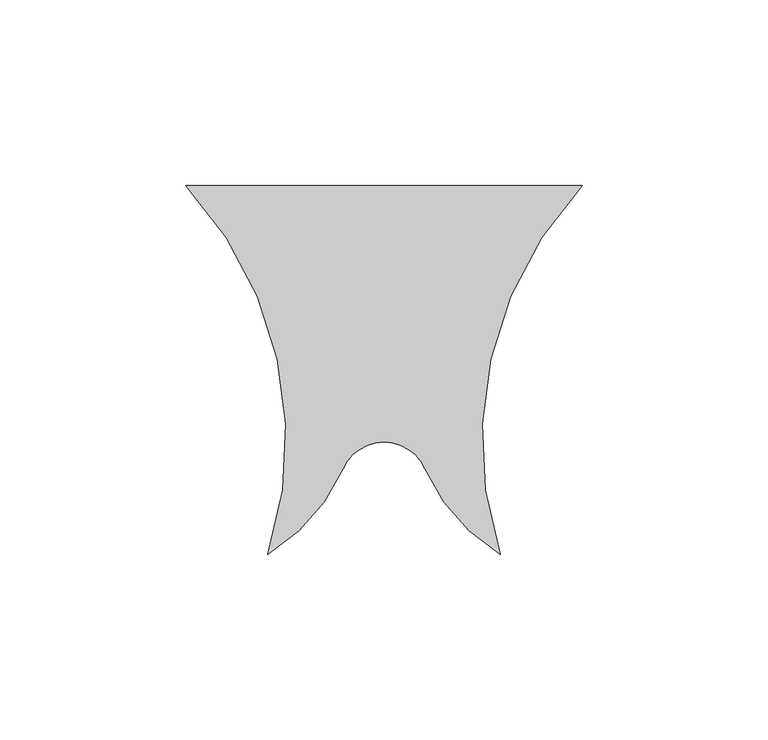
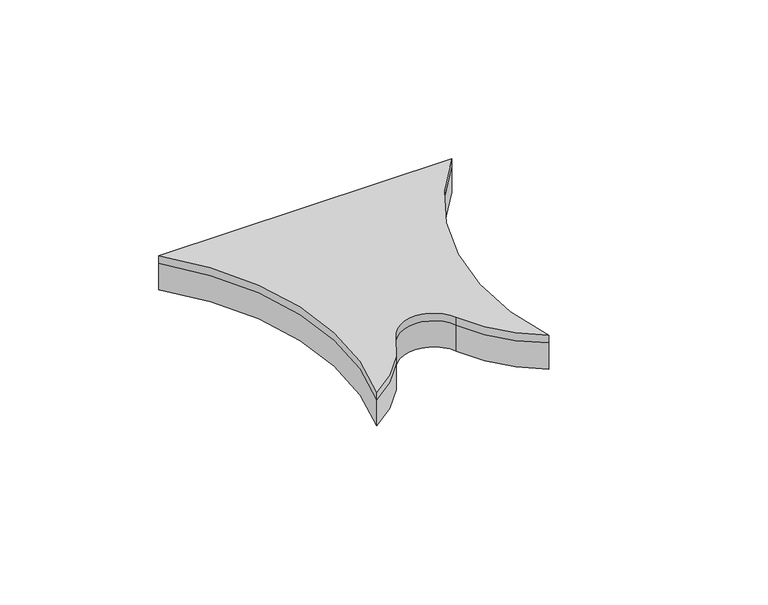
"""IFC4 building model written with IfcOpenShell, lengths in millimetres: proxy geometry, FilzFelt_Fish_Block : Fish Block."""

from ifc_helpers import new_model, si_unit, point, frame, frame_2d, origin, origin_with_axes, place, context, project, spatial, polyline, circle_curve, trimmed, segment, composite_curve, outline, extrude, source, transform, mapped, element, save


def specialty_equipment_932aa2c9(model_context):
    return source(origin(), model_context, "Body", "SweptSolid", [
        extrude(outline(composite_curve([segment(trimmed(circle_curve(frame_2d((57.9263497, -124.2921115)), 51.2968574), [point((31.2619065, -168.1141956))], [point((11.0103348, -145.0347036))], False, "CARTESIAN"), True, "CONTINUOUS"), segment(trimmed(circle_curve(frame_2d((0.0, -149.9026124)), 12.0384388), [point((11.0103348, -145.0347036))], [point((-11.0103348, -145.0347036))], True, "CARTESIAN"), True, "CONTINUOUS"), segment(trimmed(circle_curve(frame_2d((-57.9263497, -124.2921115)), 51.2968574), [point((-11.0103348, -145.0347036))], [point((-31.2619065, -168.1141956))], False, "CARTESIAN"), True, "CONTINUOUS"), segment(trimmed(circle_curve(frame_2d((-126.6124317, -137.2240266)), 100.2293629), [point((-31.2619065, -168.1141956))], [point((-53.3600205, -68.813432))], True, "CARTESIAN"), True, "CONTINUOUS"), segment(polyline([(-53.3600205, -68.813432), (53.3600205, -68.813432)]), True, "CONTINUOUS"), segment(trimmed(circle_curve(frame_2d((126.6124317, -137.2240266)), 100.2293629), [point((53.3600205, -68.813432))], [point((31.2619065, -168.1141956))], True, "CARTESIAN"), True, "CONTINUOUS")], self_intersect=False)), frame((0.0, 0.0, 10.0210937), z_axis=(0.0, 0.0, 1.0), x_axis=(1.0, 0.0, 0.0)), (0.0, 0.0, 1.0), 2.9765625),
        extrude(outline(composite_curve([segment(trimmed(circle_curve(frame_2d((57.9263497, -124.2921115)), 51.2968574), [point((31.2619065, -168.1141956))], [point((11.0103348, -145.0347036))], False, "CARTESIAN"), True, "CONTINUOUS"), segment(trimmed(circle_curve(frame_2d((0.0, -149.9026124)), 12.0384388), [point((11.0103348, -145.0347036))], [point((-11.0103348, -145.0347036))], True, "CARTESIAN"), True, "CONTINUOUS"), segment(trimmed(circle_curve(frame_2d((-57.9263497, -124.2921115)), 51.2968574), [point((-11.0103348, -145.0347036))], [point((-31.2619065, -168.1141956))], False, "CARTESIAN"), True, "CONTINUOUS"), segment(trimmed(circle_curve(frame_2d((-126.6124317, -137.2240266)), 100.2293629), [point((-31.2619065, -168.1141956))], [point((-53.3600205, -68.813432))], True, "CARTESIAN"), True, "CONTINUOUS"), segment(polyline([(-53.3600205, -68.813432), (53.3600205, -68.813432)]), True, "CONTINUOUS"), segment(trimmed(circle_curve(frame_2d((126.6124317, -137.2240266)), 100.2293629), [point((53.3600205, -68.813432))], [point((31.2619065, -168.1141956))], True, "CARTESIAN"), True, "CONTINUOUS")], self_intersect=False)), origin_with_axes(), (0.0, 0.0, 1.0), 10.0210938),
    ])


if __name__ == "__main__":
    model = new_model("IFC4")
    model_context = context("Model", 3, world=origin())
    ifc_project = project(units=[si_unit("LENGTHUNIT", "METRE", prefix="MILLI")], contexts=[model_context])
    site = spatial("IfcSite", under=ifc_project)
    building = spatial("IfcBuilding", under=site)
    placement = place(None, origin())
    specialty_equipment_shape = specialty_equipment_932aa2c9(model_context)
    element("IfcBuildingElementProxy", 1, Name="FilzFelt_Fish_Block : Fish Block", ObjectType="FilzFelt_Fish_Block : Fish Block", at=placement, inside=building, context=model_context, shape_type="MappedRepresentation", body=[
        mapped(specialty_equipment_shape, transform((0.0, 0.0, 0.0), x_axis=(1.0, 0.0, 0.0), y_axis=(0.0, 1.0, 0.0), z_axis=(0.0, 0.0, 1.0))),
    ])
    save(model, "model.ifc")
